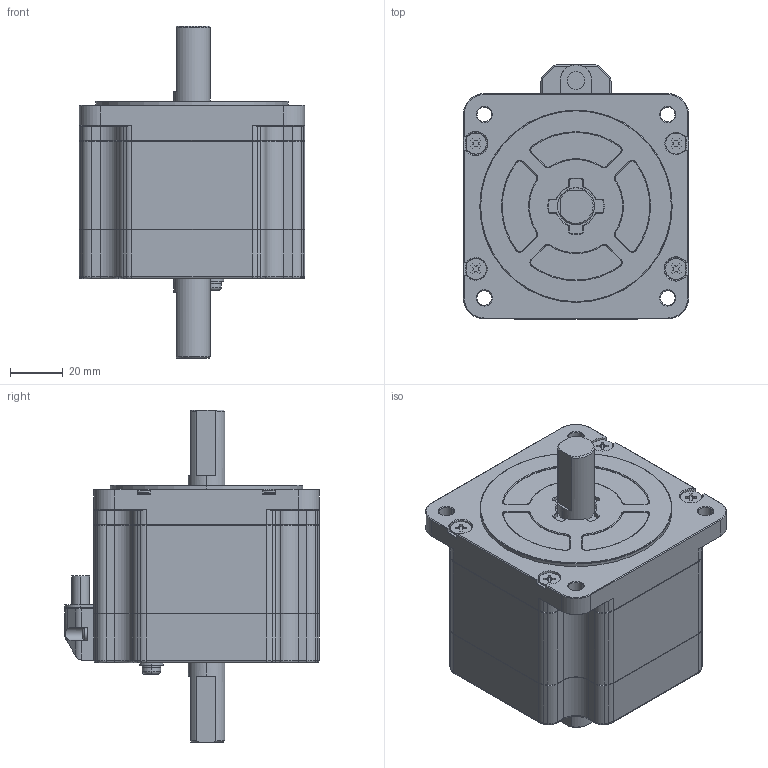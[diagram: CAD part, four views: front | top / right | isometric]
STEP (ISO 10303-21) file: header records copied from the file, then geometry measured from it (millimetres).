
FILE_DESCRIPTION (( 'STEP AP203' ), '1' );
FILE_NAME ('SM2861-5021.STEP', '2012-06-27T12:10:30', ( 'sanyodenki-admin' ), ( '' ), 'SwSTEP 2.0', 'SolidWorks 2011', '' );
FILE_SCHEMA (( 'CONFIG_CONTROL_DESIGN' ));
Length unit declared in the file: millimetre
Products named in the file (1): SM2861-5021
Bounding box: 85.5 x 96.5 x 126 mm (x, y, z)
Volume: 449329.7 mm3; surface area: 40307.3 mm2
Topology: 1 solids, 1 shells, 785 faces, 1979 edges, 1218 vertices
Faces by surface type: plane 296, cylinder 274, cone 149, torus 66
Entity records: 23598 total; most frequent: DIRECTION 4329, CARTESIAN_POINT 4141, ORIENTED_EDGE 3958, EDGE_CURVE 1979, AXIS2_PLACEMENT_3D 1602, VERTEX_POINT 1218, VECTOR 1125, LINE 1125
